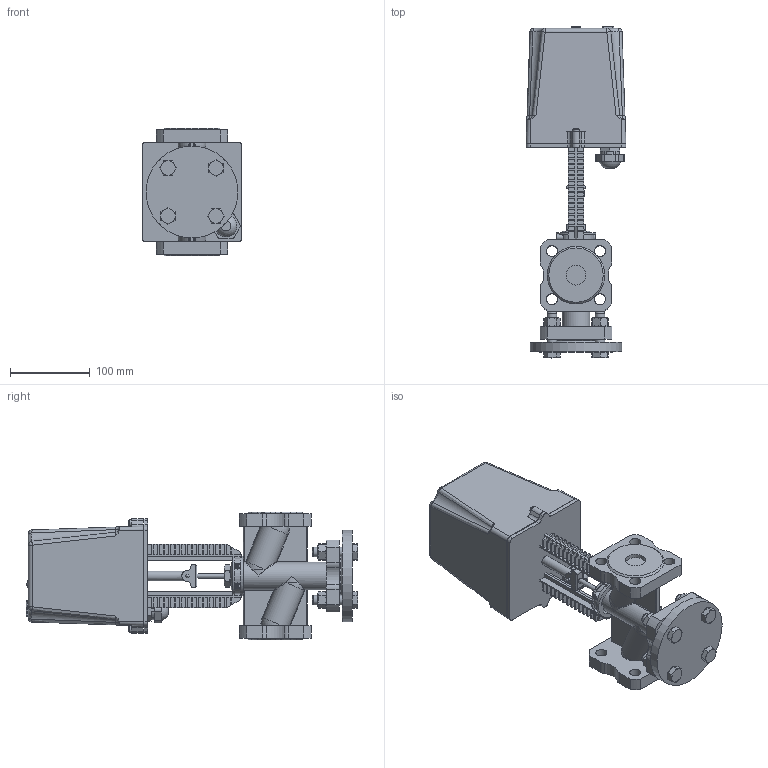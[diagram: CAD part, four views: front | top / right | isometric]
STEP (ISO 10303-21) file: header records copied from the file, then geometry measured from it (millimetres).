
FILE_DESCRIPTION(('STEP AP242'), '1');
FILE_NAME('VSR1-13V-PED-F Êëàïàí çàïîðíî-ðåãóëèðóþùèé DN.ru Äó25 Ðó16', '', ('UNSPECIFIED'), ('UNSPECIFIED'), 'C3D Converter', 'C3D Toolkit', '');
FILE_SCHEMA(('AP242_MANAGED_MODEL_BASED_3D_ENGINEERING_MIM_LF { 1 0 10303 442 1 1 4 }'));
Length unit declared in the file: millimetre
Products named in the file (1): VSR1-13V-PED-F
Bounding box: 125 x 415.5 x 160 mm (x, y, z)
Volume: 2943985.4 mm3; surface area: 287017 mm2
Topology: 1 solids, 1 shells, 1449 faces, 3932 edges, 2475 vertices
Faces by surface type: plane 748, cylinder 309, extrusion 153, bspline 93, cone 62, torus 54, sphere 30
Full cylindrical faces by diameter (mm): 4 x5, 6 x1, 7 x2, 7.5 x3, 10.106 x4, 12 x6, 14 x16, 18 x4, 25 x3, 35 x1, 50 x1, 115 x1
Entity records: 64977 total; most frequent: CARTESIAN_POINT 22457, ORIENTED_EDGE 7554, DIRECTION 6470, EDGE_CURVE 3777, VERTEX_POINT 2467, VECTOR 2410, LINE 2257, AXIS2_PLACEMENT_3D 2030
